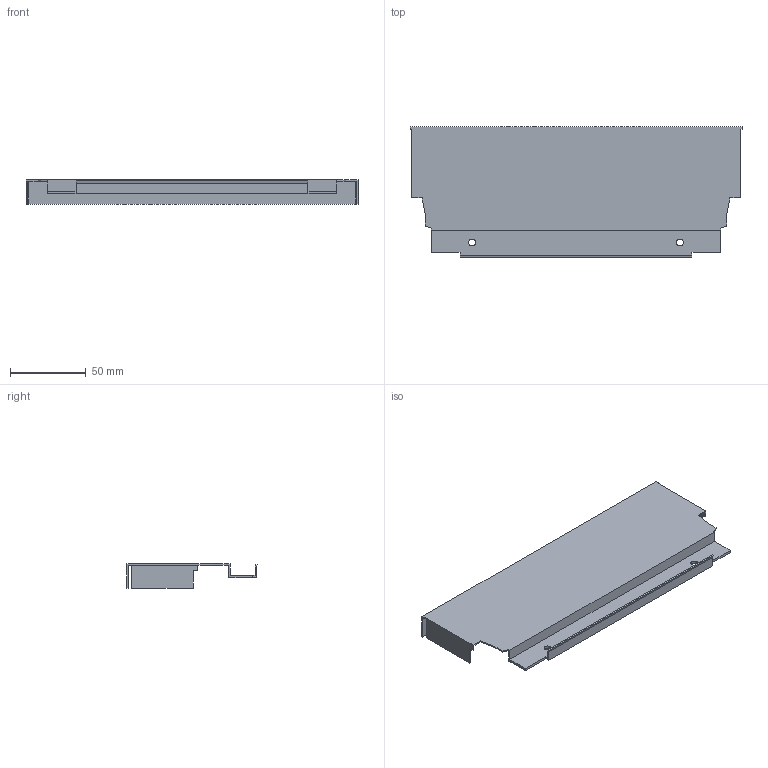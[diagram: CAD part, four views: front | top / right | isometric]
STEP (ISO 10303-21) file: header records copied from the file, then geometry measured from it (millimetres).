
FILE_DESCRIPTION (( 'STEP AP214' ), '1' );
FILE_NAME ('_DWD_XP Stahlrückwand_H86_KAB300_S16.step', '2010-07-08T12:09:52', ( 'grass' ), ( '' ), 'SwSTEP 2.0', 'SolidWorks 2010', '' );
FILE_SCHEMA (( 'AUTOMOTIVE_DESIGN' ));
Length unit declared in the file: millimetre
Products named in the file (1): _DWD_XP Stahlrückwand_H86_KAB300_S16
Bounding box: 219 x 85.79 x 16 mm (x, y, z)
Volume: 22738.5 mm3; surface area: 50349.2 mm2
Topology: 1 solids, 1 shells, 48 faces, 138 edges, 92 vertices
Faces by surface type: plane 44, cylinder 4
Entity records: 1592 total; most frequent: CARTESIAN_POINT 279, ORIENTED_EDGE 276, DIRECTION 244, EDGE_CURVE 138, LINE 130, VECTOR 130, VERTEX_POINT 92, AXIS2_PLACEMENT_3D 57
